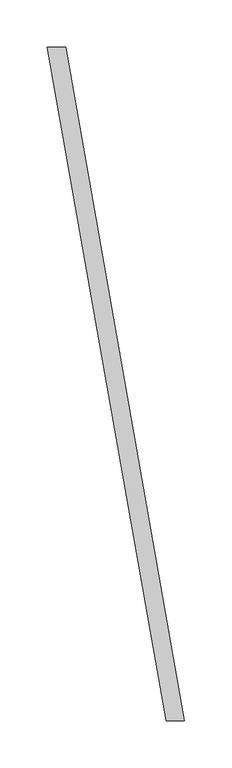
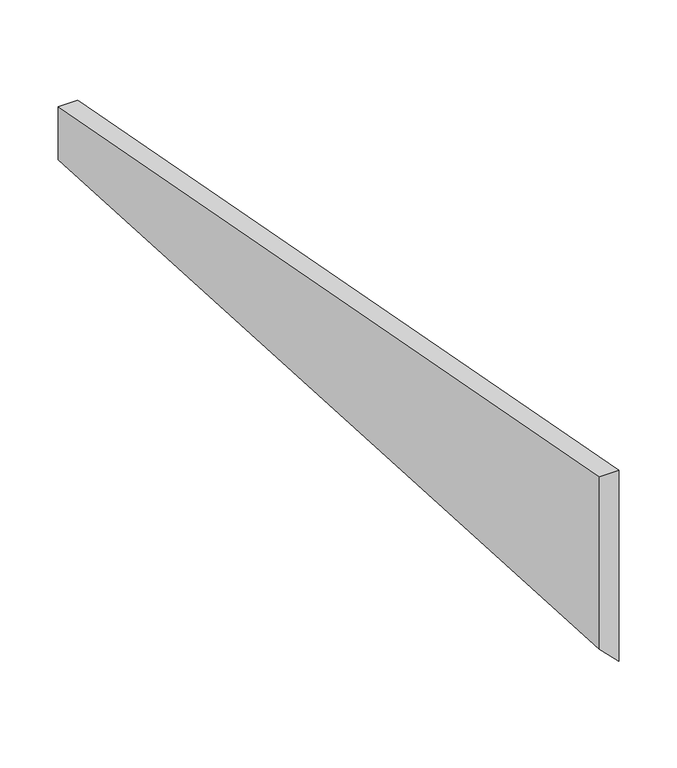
"""IFC4 building model written with IfcOpenShell, lengths in millimetres: proxy geometry, GRADIENT^TABLE 7_PYRAMID BASES-END BASE RIGHT WING."""

from ifc_helpers import new_model, si_unit, origin, place, context, project, spatial, faceted_brep, source, transform, mapped, element, save


def generic_models_c6574abe(model_context):
    return source(origin(), model_context, "Body", "Brep", [
        faceted_brep([(788.9962513, 0.0, -866.775), (769.6523744, 0.0, -866.775), (895.056123, -711.2, -866.775), (914.4, -711.2, -866.775), (788.9962513, 0.0, -941.3962513), (914.4, -711.2, -1066.8), (769.6523744, 0.0, -922.0523744), (895.056123, -711.2, -1047.456123)], [[[0, 1, 2, 3]], [[4, 0, 3, 5]], [[1, 0, 4, 6]], [[3, 2, 7, 5]], [[1, 6, 7, 2]], [[4, 5, 7, 6]]]),
    ])


if __name__ == "__main__":
    model = new_model("IFC4")
    model_context = context("Model", 3, world=origin())
    ifc_project = project(units=[si_unit("LENGTHUNIT", "METRE", prefix="MILLI")], contexts=[model_context])
    site = spatial("IfcSite", under=ifc_project)
    building = spatial("IfcBuilding", under=site)
    placement = place(None, origin())
    generic_models_shape = generic_models_c6574abe(model_context)
    element("IfcBuildingElementProxy", 1, Name="GRADIENT^TABLE 7_PYRAMID BASES-END BASE RIGHT WING", ObjectType="GRADIENT^TABLE 7_PYRAMID BASES-END BASE RIGHT WING", at=placement, inside=building, context=model_context, shape_type="MappedRepresentation", body=[
        mapped(generic_models_shape, transform((0.0, 0.0, 0.0), x_axis=(1.0, 0.0, 0.0), y_axis=(0.0, 1.0, 0.0), z_axis=(0.0, 0.0, 1.0))),
    ])
    save(model, "model.ifc")
